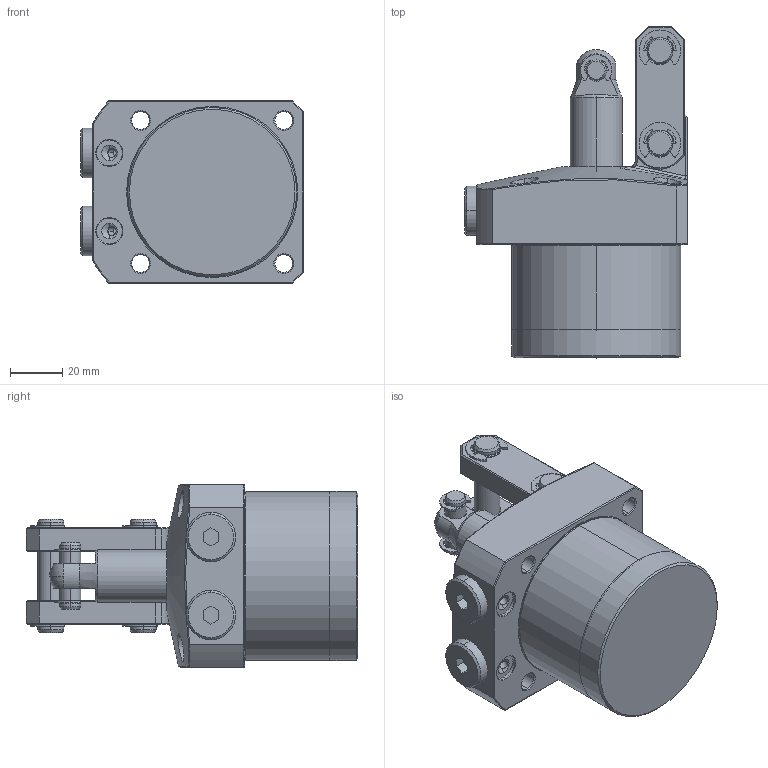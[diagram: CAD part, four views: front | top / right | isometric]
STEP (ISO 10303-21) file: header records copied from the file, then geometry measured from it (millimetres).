
FILE_DESCRIPTION(/* description */ (''),/* implementation_level */ '2;1');
FILE_NAME(/* name */ 'KTPC65-F.stp',/* time_stamp */ '2022-11-18T15:17:08+08:00',/* author */ (''),/* organization */ (''),/* preprocessor_version */ 'ST-DEVELOPER v16.7',/* originating_system */ 'SIEMENS PLM Software NX 12.0',/* authorisation */ '');
FILE_SCHEMA (('AP203_CONFIGURATION_CONTROLLED_3D_DESIGN_OF_MECHANICAL_PARTS_AND_ASSEMBLIES_MIM_LF { 1 0 10303 403 2 1 2}'));
Length unit declared in the file: millimetre
Products named in the file (10): KTPC65-F-06; KTPC65-F-02; KTPC65-F-03; KTPC65-F-05; KTPC65-F-01; KTPC65-F-07; KTPC65-F-09; KTPC65-F-04; KTPC65-F-08; LKA0650-CC_step
Assembly tree (16 placements, depth 2):
  LKA0650-CC_step
    KTPC65-F-08  x2
    KTPC65-F-04  x2
    KTPC65-F-09
    KTPC65-F-07  x2
    KTPC65-F-01
    KTPC65-F-05  x4
    KTPC65-F-03
    KTPC65-F-02
    KTPC65-F-06  x2
Bounding box: 85.5 x 127.5 x 70 mm (x, y, z)
Volume: 437101.5 mm3; surface area: 63200.3 mm2
Topology: 16 solids, 16 shells, 560 faces, 1338 edges, 836 vertices
Faces by surface type: cylinder 232, plane 175, cone 72, torus 60, bspline 19, sphere 2
Full cylindrical faces by diameter (mm): 65 x1
Entity records: 12518 total; most frequent: CARTESIAN_POINT 3054, DIRECTION 1784, ORIENTED_EDGE 1636, EDGE_CURVE 818, AXIS2_PLACEMENT_3D 723, VERTEX_POINT 506, EDGE_LOOP 396, CIRCLE 372
